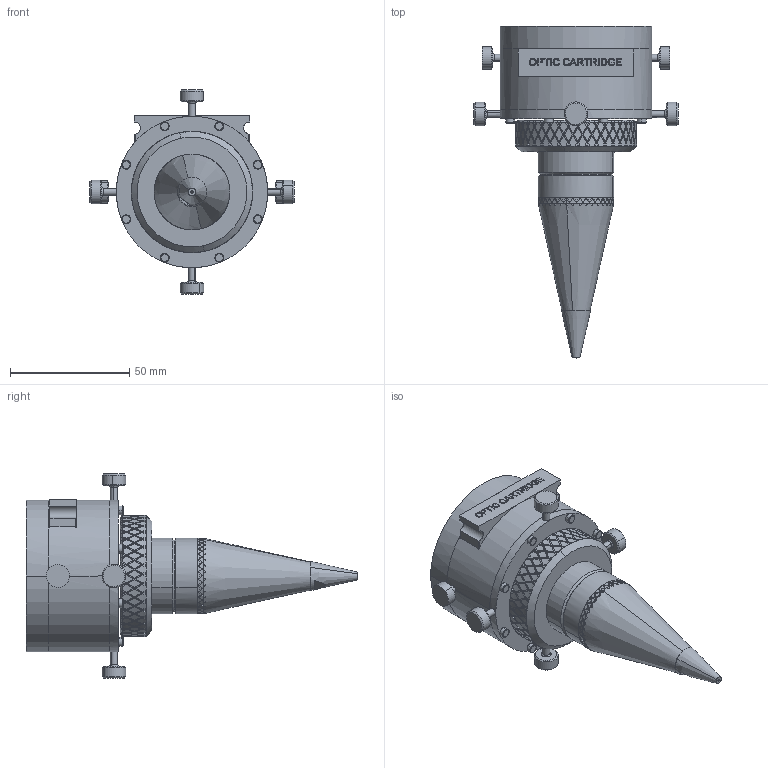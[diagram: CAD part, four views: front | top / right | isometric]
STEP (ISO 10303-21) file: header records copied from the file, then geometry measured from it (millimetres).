
FILE_DESCRIPTION (( 'STEP AP214' ), '1' );
FILE_NAME ('G2-38-38-127.STEP', '2017-01-05T13:59:30', ( '' ), ( '' ), 'SwSTEP 2.0', 'SolidWorks 2017', '' );
FILE_SCHEMA (( 'AUTOMOTIVE_DESIGN' ));
Length unit declared in the file: inch
Products named in the file (1): G2-38-38-127
Bounding box: 85.56 x 139.1 x 85.56 mm (x, y, z)
Volume: 176259.1 mm3; surface area: 35541.5 mm2
Topology: 2 solids, 2 shells, 2213 faces, 5625 edges, 3461 vertices
Faces by surface type: plane 1622, cylinder 431, cone 67, bspline 65, torus 28
Entity records: 69652 total; most frequent: CARTESIAN_POINT 21416, ORIENTED_EDGE 11250, DIRECTION 8629, EDGE_CURVE 5625, VERTEX_POINT 3461, VECTOR 3049, LINE 3049, AXIS2_PLACEMENT_3D 2790
